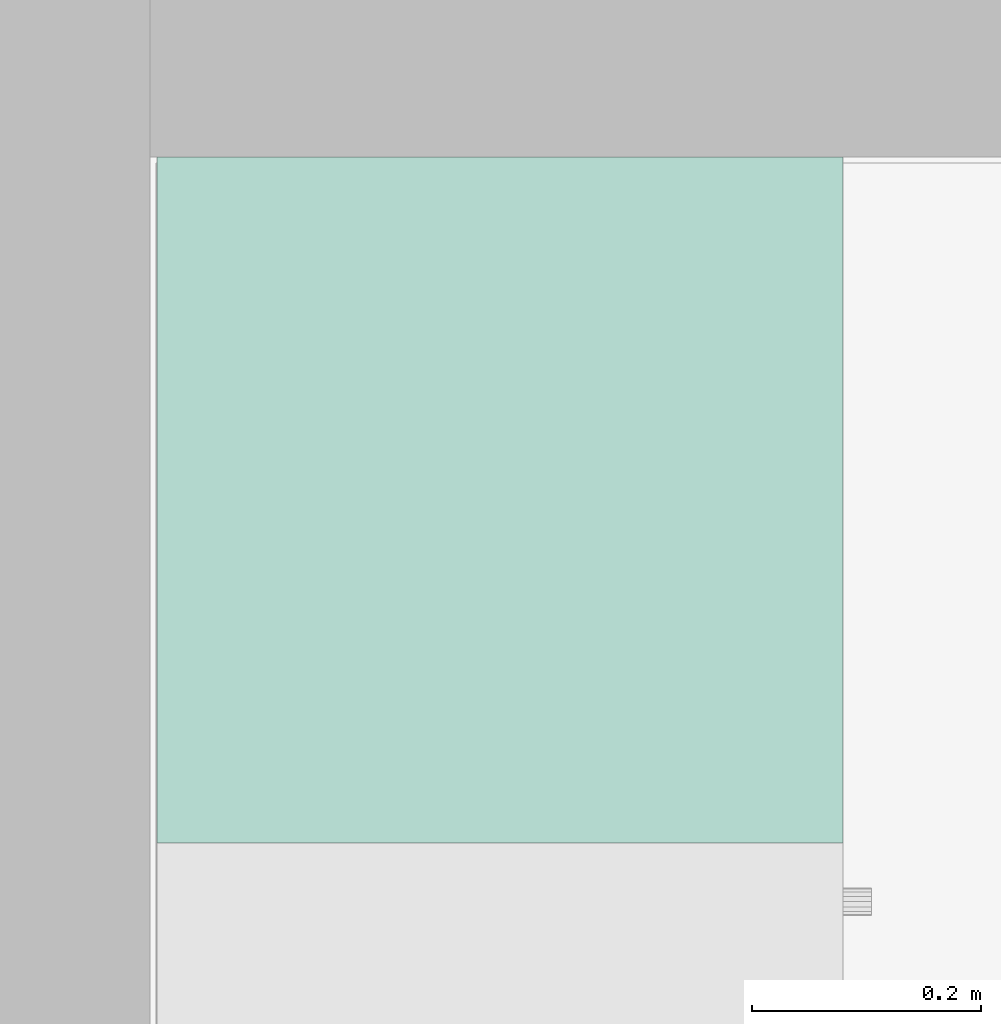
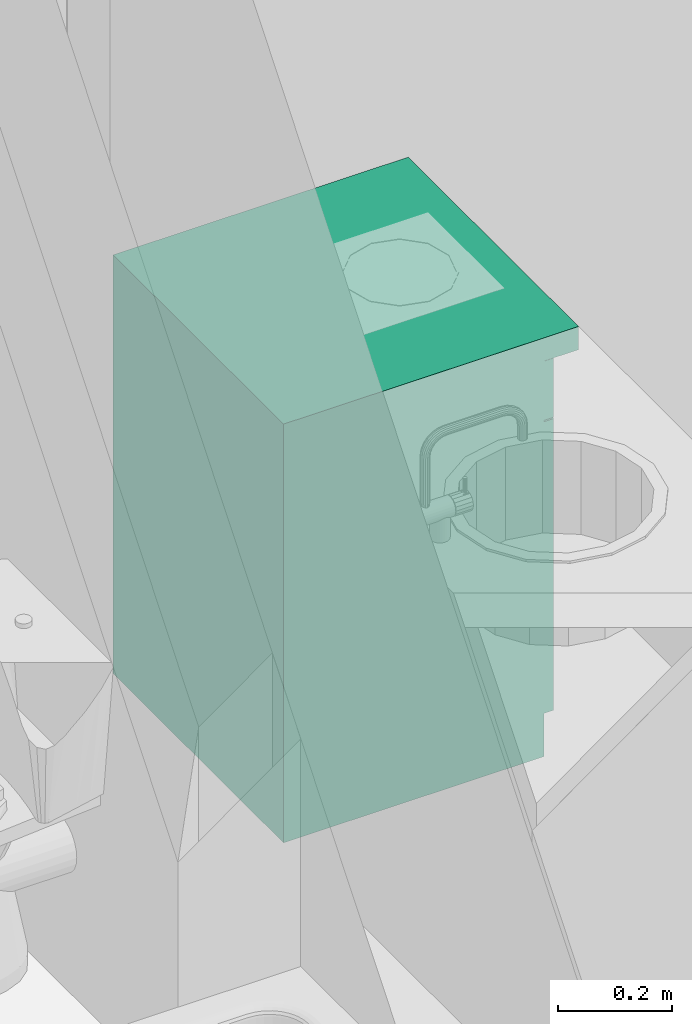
# One storey, part 50 of 172: 1 flow terminal.
"""IFC2X3 building model written with IfcOpenShell, lengths in millimetres."""

from ifc_helpers import new_model, entity, si_unit, converted_unit, money_unit, direction, frame, origin_with_axes, place, context, subcontext, project, spatial, faceted_brep, source, transform, mapped, material, material_list, type_object, element, save


model = new_model("IFC2X3")

# Units and contexts
model_context = context("Model", 3, precision=1e-05, world=origin_with_axes(), true_north=direction((0.0, 1.0)))
body_context = subcontext(model_context, "Body", "Model", "MODEL_VIEW")
ifc_project = project(units=[si_unit("LENGTHUNIT", "METRE", prefix="MILLI"), si_unit("AREAUNIT", "SQUARE_METRE"), si_unit("VOLUMEUNIT", "CUBIC_METRE"), converted_unit("PLANEANGLEUNIT", "DEGREE", entity("IfcPlaneAngleMeasure", 0.0174532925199), si_unit("PLANEANGLEUNIT", "RADIAN"), dimensions=[0, 0, 0, 0, 0, 0, 0]), si_unit("SOLIDANGLEUNIT", "STERADIAN"), money_unit("USD"), converted_unit("TIMEUNIT", "Year", entity("IfcTimeMeasure", 31556926.0), si_unit("TIMEUNIT", "SECOND"), dimensions=[0, 0, 0, 0, 0, 0, 0]), si_unit("MASSUNIT", "GRAM"), si_unit("THERMODYNAMICTEMPERATUREUNIT", "DEGREE_CELSIUS"), si_unit("LUMINOUSINTENSITYUNIT", "LUMEN")], contexts=[model_context])

# Site, building, storey
site_placement = place(None, origin_with_axes())
site = spatial("IfcSite", under=ifc_project, at=site_placement, Name="Site", CompositionType="ELEMENT")
building_placement = place(site_placement, origin_with_axes())
building = spatial("IfcBuilding", under=site, at=building_placement, Name="Building", CompositionType="ELEMENT")
storey_placement = place(building_placement, frame((0.0, 0.0, 3200.0), z_axis=(0.0, 0.0, 1.0), x_axis=(1.0, 0.0, 0.0)))
storey = spatial("IfcBuildingStorey", under=building, at=storey_placement, Name="3KORRUS", CompositionType="ELEMENT", Elevation=3200.0)

# Flow terminal
ifc_material = material(Name="Background")
ifc_material_list = material_list([ifc_material])
sanitary_terminal_type = type_object("IfcSanitaryTerminalType", Name="Cabinet Base Single Door 19", PredefinedType="SINK")
shared_shape = source(origin_with_axes(), body_context, "Body", "Brep", [
    faceted_brep([(20.0, 70.0, 710.0), (580.0, 70.0, 710.0), (580.0, 70.0, 730.0), (20.0, 70.0, 730.0), (20.0, 580.0, 710.0), (580.0, 580.0, 710.0), (580.0, 580.0, 730.0), (20.0, 580.0, 730.0)], [[[0, 1, 2, 3]], [[0, 4, 5, 1]], [[1, 5, 6, 2]], [[3, 2, 6, 7]], [[4, 0, 3, 7]], [[5, 4, 7, 6]]]),
    faceted_brep([(0.0, 70.0, 0.0), (600.0, 70.0, 0.0), (600.0, 70.0, 90.0), (0.0, 70.0, 90.0), (0.0, 600.0, 0.0), (600.0, 600.0, 0.0), (600.0, 600.0, 90.0), (0.0, 600.0, 90.0)], [[[0, 1, 2, 3]], [[0, 4, 5, 1]], [[1, 5, 6, 2]], [[3, 2, 6, 7]], [[4, 0, 3, 7]], [[5, 4, 7, 6]]]),
    faceted_brep([(0.0, 70.0, 830.0), (20.0, 70.0, 830.0), (20.0, 70.0, 850.0), (0.0, 70.0, 850.0), (0.0, 600.0, 830.0), (20.0, 600.0, 830.0), (580.0, 600.0, 830.0), (600.0, 600.0, 830.0), (600.0, 70.0, 830.0), (580.0, 70.0, 830.0), (580.0, 70.0, 850.0), (600.0, 70.0, 850.0), (600.0, 600.0, 850.0), (580.0, 600.0, 850.0), (20.0, 600.0, 850.0), (0.0, 600.0, 850.0)], [[[0, 1, 2, 3]], [[0, 4, 5, 6, 7, 8, 9, 1]], [[1, 9, 10, 2]], [[3, 2, 10, 11, 12, 13, 14, 15]], [[4, 0, 3, 15]], [[5, 4, 15, 14]], [[6, 5, 14, 13]], [[7, 6, 13, 12]], [[8, 7, 12, 11]], [[9, 8, 11, 10]]]),
    faceted_brep([(0.0, 70.0, 90.0), (20.0, 70.0, 90.0), (20.0, 70.0, 110.0), (0.0, 70.0, 110.0), (0.0, 600.0, 90.0), (20.0, 600.0, 90.0), (580.0, 600.0, 90.0), (600.0, 600.0, 90.0), (600.0, 70.0, 90.0), (580.0, 70.0, 90.0), (580.0, 70.0, 110.0), (600.0, 70.0, 110.0), (600.0, 600.0, 110.0), (580.0, 600.0, 110.0), (20.0, 600.0, 110.0), (0.0, 600.0, 110.0)], [[[0, 1, 2, 3]], [[0, 4, 5, 6, 7, 8, 9, 1]], [[1, 9, 10, 2]], [[3, 2, 10, 11, 12, 13, 14, 15]], [[4, 0, 3, 15]], [[5, 4, 15, 14]], [[6, 5, 14, 13]], [[7, 6, 13, 12]], [[8, 7, 12, 11]], [[9, 8, 11, 10]]]),
    faceted_brep([(0.0, 70.0, 110.0), (20.0, 70.0, 110.0), (20.0, 70.0, 830.0), (0.0, 70.0, 830.0), (0.0, 600.0, 110.0), (600.0, 600.0, 110.0), (600.0, 70.0, 110.0), (580.0, 70.0, 110.0), (580.0, 580.0, 110.0), (20.0, 580.0, 110.0), (20.0, 580.0, 830.0), (580.0, 580.0, 830.0), (580.0, 70.0, 830.0), (600.0, 70.0, 830.0), (600.0, 600.0, 830.0), (0.0, 600.0, 830.0)], [[[0, 1, 2, 3]], [[0, 4, 5, 6, 7, 8, 9, 1]], [[1, 9, 10, 2]], [[3, 2, 10, 11, 12, 13, 14, 15]], [[4, 0, 3, 15]], [[5, 4, 15, 14]], [[6, 5, 14, 13]], [[7, 6, 13, 12]], [[8, 7, 12, 11]], [[9, 8, 11, 10]]]),
    faceted_brep([(580.0, 70.0, 385.0), (580.0, 580.0, 385.0), (580.0, 580.0, 405.0), (580.0, 70.0, 405.0), (20.0, 70.0, 385.0), (20.0, 580.0, 385.0), (20.0, 580.0, 405.0), (20.0, 70.0, 405.0)], [[[0, 1, 2, 3]], [[0, 4, 5, 1]], [[1, 5, 6, 2]], [[3, 2, 6, 7]], [[4, 0, 3, 7]], [[5, 4, 7, 6]]]),
    faceted_brep([(0.0, 0.0, 850.0), (600.0, 0.0, 850.0), (600.0, 0.0, 900.0), (0.0, 0.0, 900.0), (0.0, 600.0, 850.0), (600.0, 600.0, 850.0), (600.0, 600.0, 900.0), (0.0, 600.0, 900.0)], [[[0, 1, 2, 3]], [[0, 4, 5, 1]], [[1, 5, 6, 2]], [[3, 2, 6, 7]], [[4, 0, 3, 7]], [[5, 4, 7, 6]]]),
    faceted_brep([(1.5, 70.0, 721.5), (598.5, 70.0, 721.5), (598.5, 50.0, 721.5), (1.5, 50.0, 721.5), (1.5, 70.0, 848.5), (598.5, 70.0, 848.5), (598.5, 50.0, 848.5), (1.5, 50.0, 848.5)], [[[0, 1, 2, 3]], [[0, 4, 5, 1]], [[1, 5, 6, 2]], [[3, 2, 6, 7]], [[4, 0, 3, 7]], [[5, 4, 7, 6]]]),
    faceted_brep([(295.408, 50.0, 773.913), (291.515, 50.0, 776.515), (288.913, 50.0, 780.408), (288.0, 50.0, 785.0), (288.913, 50.0, 789.592), (291.515, 50.0, 793.485), (295.408, 50.0, 796.087), (300.0, 50.0, 797.0), (304.592, 50.0, 796.087), (308.485, 50.0, 793.485), (311.087, 50.0, 789.592), (312.0, 50.0, 785.0), (311.087, 50.0, 780.408), (308.485, 50.0, 776.515), (304.592, 50.0, 773.913), (300.0, 50.0, 773.0), (295.408, 25.0, 773.913), (291.515, 25.0, 776.515), (288.913, 25.0, 780.408), (288.0, 25.0, 785.0), (288.913, 25.0, 789.592), (291.515, 25.0, 793.485), (295.408, 25.0, 796.087), (300.0, 25.0, 797.0), (304.592, 25.0, 796.087), (308.485, 25.0, 793.485), (311.087, 25.0, 789.592), (312.0, 25.0, 785.0), (311.087, 25.0, 780.408), (308.485, 25.0, 776.515), (304.592, 25.0, 773.913), (300.0, 25.0, 773.0)], [[[0, 1, 2, 3, 4, 5, 6, 7, 8, 9, 10, 11, 12, 13, 14, 15]], [[1, 0, 16, 17]], [[2, 1, 17, 18]], [[3, 2, 18, 19]], [[4, 3, 19, 20]], [[5, 4, 20, 21]], [[6, 5, 21, 22]], [[7, 6, 22, 23]], [[8, 7, 23, 24]], [[9, 8, 24, 25]], [[10, 9, 25, 26]], [[11, 10, 26, 27]], [[12, 11, 27, 28]], [[13, 12, 28, 29]], [[14, 13, 29, 30]], [[15, 14, 30, 31]], [[0, 15, 31, 16]], [[16, 31, 30, 29, 28, 27, 26, 25, 24, 23, 22, 21, 20, 19, 18, 17]]]),
    faceted_brep([(1.5, 70.0, 91.5), (598.5, 70.0, 91.5), (598.5, 50.0, 91.5), (1.5, 50.0, 91.5), (1.5, 70.0, 718.5), (598.5, 70.0, 718.5), (598.5, 50.0, 718.5), (1.5, 50.0, 718.5)], [[[0, 1, 2, 3]], [[0, 4, 5, 1]], [[1, 5, 6, 2]], [[3, 2, 6, 7]], [[4, 0, 3, 7]], [[5, 4, 7, 6]]]),
    faceted_brep([(559.587, 50.0, 636.908), (556.985, 50.0, 633.015), (553.092, 50.0, 630.413), (548.5, 50.0, 629.5), (543.908, 50.0, 630.413), (540.015, 50.0, 633.015), (537.413, 50.0, 636.908), (536.5, 50.0, 641.5), (537.413, 50.0, 646.092), (540.015, 50.0, 649.985), (543.908, 50.0, 652.587), (548.5, 50.0, 653.5), (553.092, 50.0, 652.587), (556.985, 50.0, 649.985), (559.587, 50.0, 646.092), (560.5, 50.0, 641.5), (559.587, 25.0, 636.908), (556.985, 25.0, 633.015), (553.092, 25.0, 630.413), (548.5, 25.0, 629.5), (543.908, 25.0, 630.413), (540.015, 25.0, 633.015), (537.413, 25.0, 636.908), (536.5, 25.0, 641.5), (537.413, 25.0, 646.092), (540.015, 25.0, 649.985), (543.908, 25.0, 652.587), (548.5, 25.0, 653.5), (553.092, 25.0, 652.587), (556.985, 25.0, 649.985), (559.587, 25.0, 646.092), (560.5, 25.0, 641.5)], [[[0, 1, 2, 3, 4, 5, 6, 7, 8, 9, 10, 11, 12, 13, 14, 15]], [[1, 0, 16, 17]], [[2, 1, 17, 18]], [[3, 2, 18, 19]], [[4, 3, 19, 20]], [[5, 4, 20, 21]], [[6, 5, 21, 22]], [[7, 6, 22, 23]], [[8, 7, 23, 24]], [[9, 8, 24, 25]], [[10, 9, 25, 26]], [[11, 10, 26, 27]], [[12, 11, 27, 28]], [[13, 12, 28, 29]], [[14, 13, 29, 30]], [[15, 14, 30, 31]], [[0, 15, 31, 16]], [[16, 31, 30, 29, 28, 27, 26, 25, 24, 23, 22, 21, 20, 19, 18, 17]]]),
])
flow_terminal_placement = place(storey_placement, frame((-29384.008308, -13789.2398994, 0.0), z_axis=(0.0, 0.0, 1.0), x_axis=(0.0, 1.0, 0.0)))
element("IfcFlowTerminal", 1, at=flow_terminal_placement, inside=storey, type_object=sanitary_terminal_type, material=ifc_material_list, Name="FU - 007", context=body_context, shape_type="MappedRepresentation", body=[
    mapped(shared_shape, transform((0.0, 0.0, 0.0))),
])

save(model, "model.ifc")
